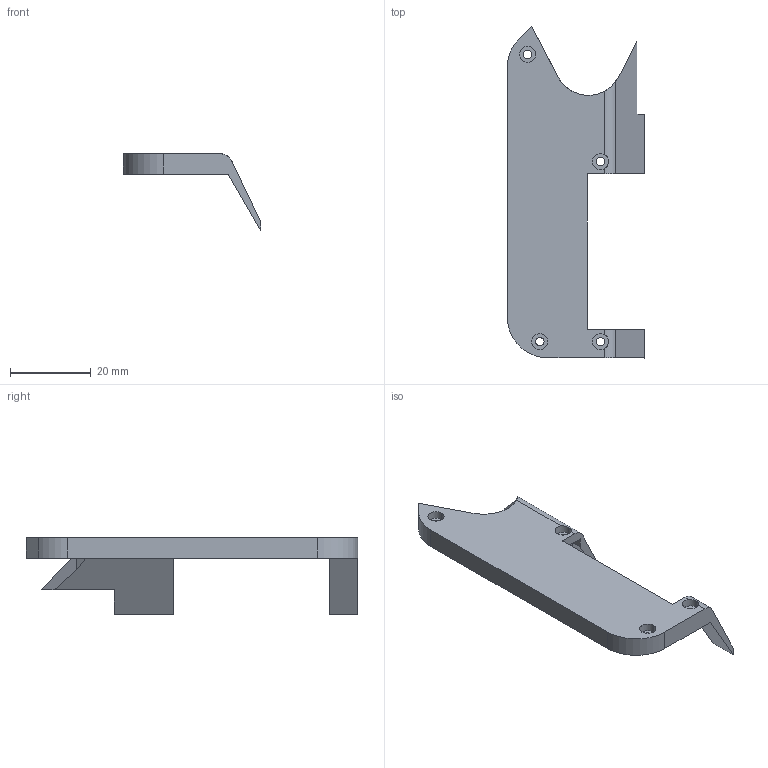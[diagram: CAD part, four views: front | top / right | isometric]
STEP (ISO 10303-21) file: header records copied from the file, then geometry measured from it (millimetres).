
FILE_DESCRIPTION (( 'STEP AP214' ), '1' );
FILE_NAME ('Palm4.STEP', '2026-09-16T05:41:35', ( '' ), ( '' ), 'SwSTEP 2.0', 'SolidWorks 2024', '' );
FILE_SCHEMA (( 'AUTOMOTIVE_DESIGN' ));
Length unit declared in the file: millimetre
Products named in the file (2): gx16_手掌盖 - 副本_默认; Palm4
Assembly tree (1 placements, depth 2):
  Palm4
    gx16_手掌盖 - 副本_默认
Bounding box: 33.9 x 82.02 x 18.86 mm (x, y, z)
Volume: 5529.4 mm3; surface area: 5583.2 mm2
Topology: 1 solids, 1 shells, 53 faces, 142 edges, 94 vertices
Faces by surface type: plane 30, cylinder 23
Entity records: 1769 total; most frequent: CARTESIAN_POINT 339, DIRECTION 295, ORIENTED_EDGE 284, EDGE_CURVE 142, AXIS2_PLACEMENT_3D 102, VERTEX_POINT 94, VECTOR 91, LINE 91
